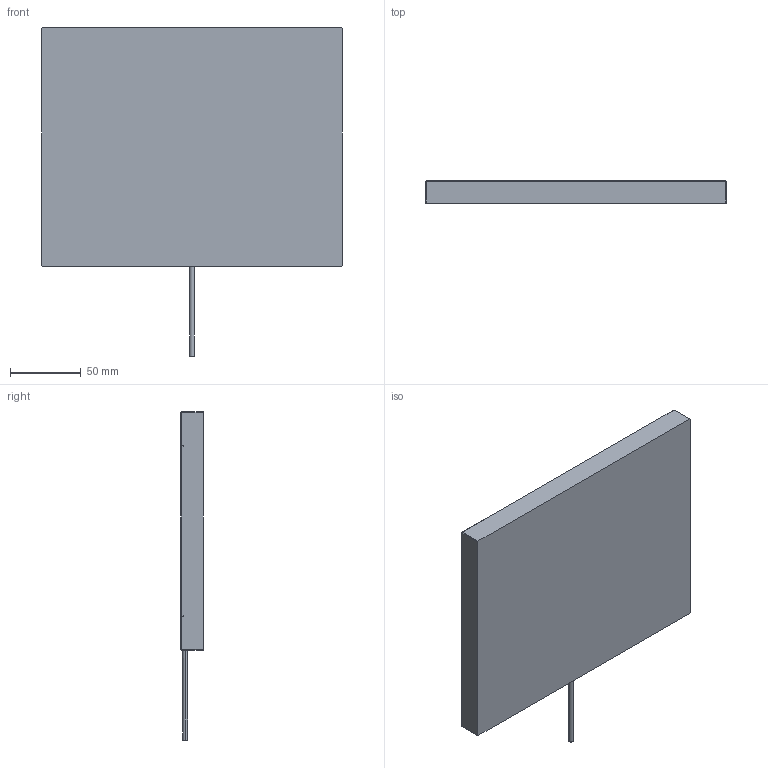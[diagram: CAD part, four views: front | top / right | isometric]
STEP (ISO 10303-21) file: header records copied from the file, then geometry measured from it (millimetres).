
FILE_DESCRIPTION((''),'2;1');
FILE_NAME('P-HFL-200-160-DIBAN','2021-12-09T',('Administrator'),(''),'PRO/ENGINEER BY PARAMETRIC TECHNOLOGY CORPORATION, 2010100','PRO/ENGINEER BY PARAMETRIC TECHNOLOGY CORPORATION, 2010100','');
FILE_SCHEMA(('CONFIG_CONTROL_DESIGN'));
Length unit declared in the file: millimetre
Products named in the file (1): P-HFL-200-160-DIBAN
Bounding box: 212 x 16 x 231.39 mm (x, y, z)
Volume: 566239 mm3; surface area: 103091.3 mm2
Topology: 1 solids, 5 shells, 84 faces, 220 edges, 140 vertices
Faces by surface type: plane 45, cylinder 29, cone 10
Entity records: 2577 total; most frequent: DIRECTION 452, CARTESIAN_POINT 437, ORIENTED_EDGE 408, EDGE_CURVE 212, AXIS2_PLACEMENT_3D 155, VECTOR 142, LINE 142, VERTEX_POINT 140
